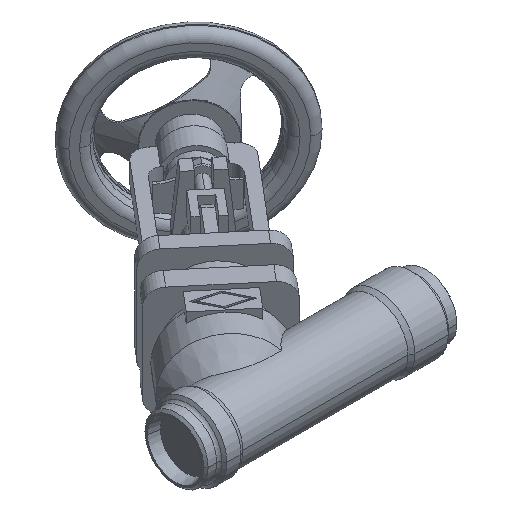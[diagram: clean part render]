
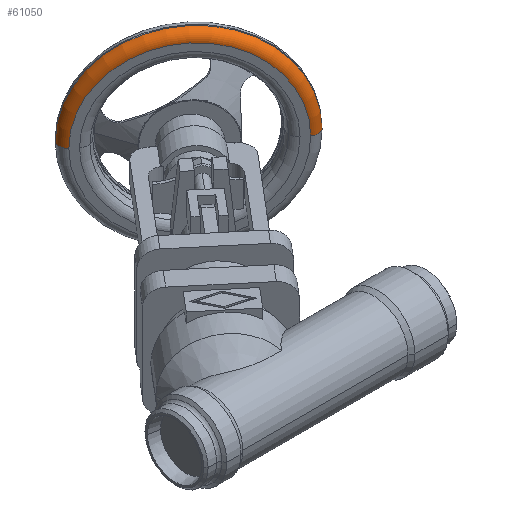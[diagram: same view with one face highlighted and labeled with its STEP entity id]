
A CAD part, isometric view. The second image highlights one B-rep face of the part: STEP entity #61050.
In plain terms, the highlighted toroidal (fillet/blend) face has major radius 68 mm and minor radius 7 mm.
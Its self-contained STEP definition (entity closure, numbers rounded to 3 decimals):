
#60290=CARTESIAN_POINT('',(164.442,259.025,0.));
#60300=VERTEX_POINT('',#60290);
#60330=CARTESIAN_POINT('',(221.895,210.815,0.));
#60340=DIRECTION('',(0.643,0.766,0.));
#60350=DIRECTION('',(-0.766,0.643,
0.));
#60360=AXIS2_PLACEMENT_3D('',#60330,#60340,#60350);
#60370=CIRCLE('',#60360,75.);
#60380=CARTESIAN_POINT('',(279.348,162.606,0.));
#60390=VERTEX_POINT('',#60380);
#60670=CARTESIAN_POINT('',(221.895,210.815,0.));
#60680=DIRECTION('',(0.643,0.766,0.));
#60690=DIRECTION('',(0.766,-0.643,0.));
#60700=AXIS2_PLACEMENT_3D('',#60670,#60680,#60690);
#60710=TOROIDAL_SURFACE('',#60700,68.,7.);
#60720=CARTESIAN_POINT('',(169.804,254.525,0.));
#60730=DIRECTION('',(0.,0.,1.));
#60740=DIRECTION('',(0.174,-0.985,0.));
#60750=AXIS2_PLACEMENT_3D('',#60720,#60730,#60740);
#60760=CIRCLE('',#60750,7.);
#60770=CARTESIAN_POINT('',(165.305,249.163,0.));
#60780=VERTEX_POINT('',#60770);
#60790=EDGE_CURVE('',#60300,#60780,#60760,.T.);
#60800=ORIENTED_EDGE('',*,*,#60790,.T.);
#60810=EDGE_CURVE('',#60300,#60390,#60370,.T.);
#60820=ORIENTED_EDGE('',*,*,#60810,.F.);
#60830=CARTESIAN_POINT('',(273.986,167.106,0.));
#60840=DIRECTION('',(0.,0.,-1.));
#60850=DIRECTION('',(-1.,0.,0.));
#60860=AXIS2_PLACEMENT_3D('',#60830,#60840,#60850);
#60870=CIRCLE('',#60860,7.);
#60880=CARTESIAN_POINT('',(269.487,161.744,0.));
#60890=VERTEX_POINT('',#60880);
#60900=EDGE_CURVE('',#60390,#60890,#60870,.T.);
#60910=ORIENTED_EDGE('',*,*,#60900,.F.);
#60920=CARTESIAN_POINT('',(217.396,205.453,0.));
#60930=DIRECTION('',(0.643,0.766,0.));
#60940=DIRECTION('',(-0.766,0.643,
0.));
#60950=AXIS2_PLACEMENT_3D('',#60920,#60930,#60940);
#60960=CIRCLE('',#60950,68.);
#60970=CARTESIAN_POINT('',(217.396,205.453,68.));
#60980=VERTEX_POINT('',#60970);
#60990=EDGE_CURVE('',#60980,#60890,#60960,.T.);
#61000=ORIENTED_EDGE('',*,*,#60990,.T.);
#61010=EDGE_CURVE('',#60780,#60980,#60960,.T.);
#61020=ORIENTED_EDGE('',*,*,#61010,.T.);
#61030=EDGE_LOOP('',(#61020,#61000,#60910,#60820,#60800));
#61040=FACE_OUTER_BOUND('',#61030,.T.);
#61050=ADVANCED_FACE('',(#61040),#60710,.T.);
